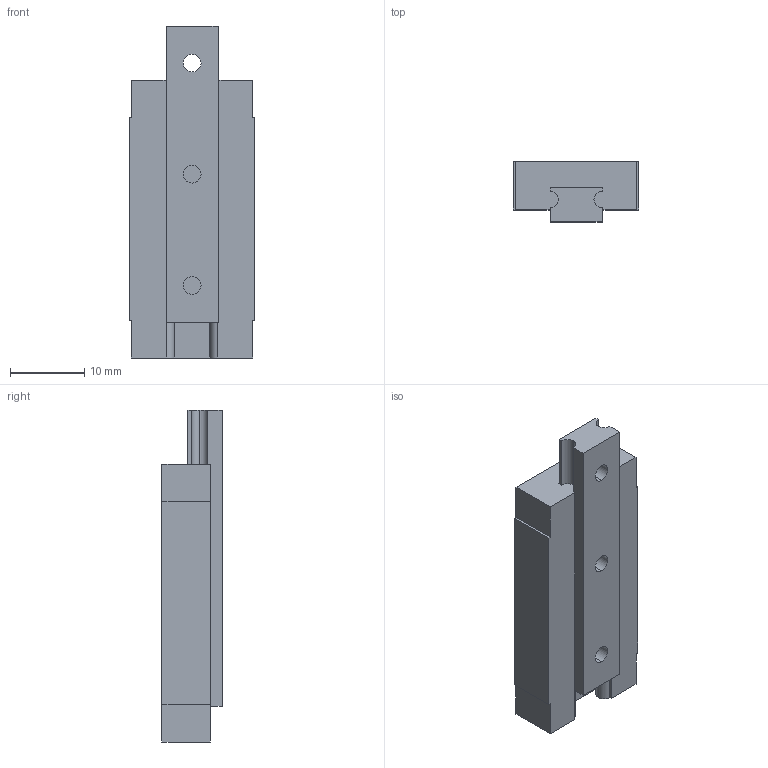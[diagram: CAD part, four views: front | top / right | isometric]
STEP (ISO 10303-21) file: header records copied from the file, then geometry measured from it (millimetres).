
FILE_DESCRIPTION (( 'STEP AP203' ), '1' );
FILE_NAME ('MCM 7LL.STEP', '2020-08-14T04:43:36', ( '' ), ( '' ), 'SwSTEP 2.0', 'SolidWorks 2014', '' );
FILE_SCHEMA (( 'CONFIG_CONTROL_DESIGN' ));
Length unit declared in the file: inch
Products named in the file (3): mcm7 LL; MCM TABLE 7 - 40; MCM 7LL
Assembly tree (2 placements, depth 2):
  MCM 7LL
    MCM TABLE 7 - 40
    mcm7 LL
Bounding box: 17 x 8.1 x 44.8 mm (x, y, z)
Volume: 4391.8 mm3; surface area: 3576.8 mm2
Topology: 2 solids, 2 shells, 73 faces, 186 edges, 114 vertices
Faces by surface type: plane 31, cylinder 30, cone 12
Entity records: 2443 total; most frequent: DIRECTION 390, CARTESIAN_POINT 366, ORIENTED_EDGE 348, EDGE_CURVE 174, AXIS2_PLACEMENT_3D 138, VERTEX_POINT 114, VECTOR 114, LINE 114
